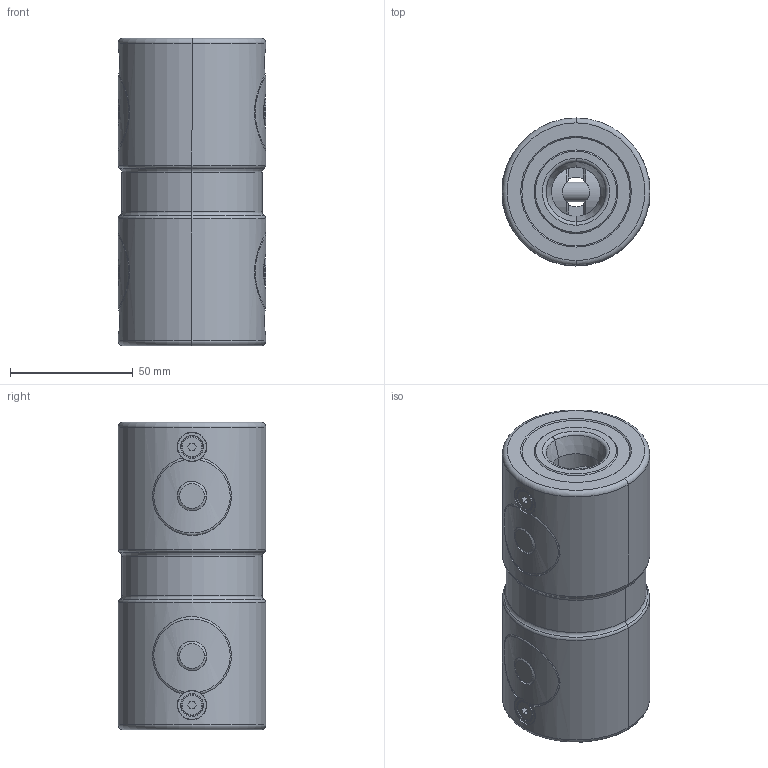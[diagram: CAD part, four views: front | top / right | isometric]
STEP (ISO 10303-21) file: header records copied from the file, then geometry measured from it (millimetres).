
FILE_DESCRIPTION (( 'STEP AP203' ), '1' );
FILE_NAME ('cp151-12125.STEP', '2021-10-25T23:52:40', ( '' ), ( '' ), 'SwSTEP 2.0', 'SolidWorks 2020', '' );
FILE_SCHEMA (( 'CONFIG_CONTROL_DESIGN' ));
Length unit declared in the file: millimetre
Products named in the file (8): cp151-12125_04; cp151-12125; cp151-12125_01; cp151-12125_05; cp151-12125_03; cp151-12125_06; cp151-12125_07; cp151-12125_02
Assembly tree (7 placements, depth 2):
  cp151-12125
    cp151-12125_01
    cp151-12125_02
    cp151-12125_03
    cp151-12125_04
    cp151-12125_05
    cp151-12125_06
    cp151-12125_07
Bounding box: 60 x 60 x 125 mm (x, y, z)
Volume: 311607.3 mm3; surface area: 64534.7 mm2
Topology: 7 solids, 7 shells, 374 faces, 840 edges, 516 vertices
Faces by surface type: cylinder 124, cone 100, plane 98, torus 44, bspline 8
Entity records: 15984 total; most frequent: CARTESIAN_POINT 6766, DIRECTION 1828, ORIENTED_EDGE 1680, EDGE_CURVE 840, AXIS2_PLACEMENT_3D 752, VERTEX_POINT 516, EDGE_LOOP 428, CIRCLE 376
